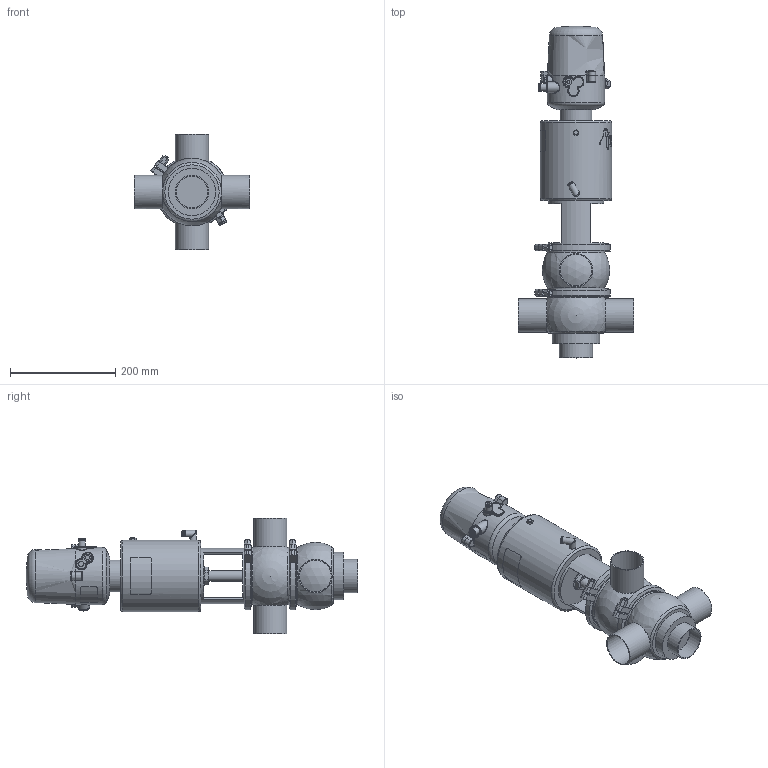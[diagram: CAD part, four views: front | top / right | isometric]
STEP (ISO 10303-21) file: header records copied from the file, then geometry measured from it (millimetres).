
FILE_DESCRIPTION (( 'STEP AP214' ), '1' );
FILE_NAME ('INNOVA K G W OD 2½ T3 AS NC & C-TOP S_10.240.16.0082.STEP', '2024-08-06T09:06:01', ( '' ), ( '' ), 'SwSTEP 2.0', 'SolidWorks 2023', '' );
FILE_SCHEMA (( 'AUTOMOTIVE_DESIGN' ));
Length unit declared in the file: millimetre
Products named in the file (8): INNOVA K G W OD 2½ T3 AS NC & C-TOP S_10.240.16.0082; 10.426.15.0001_C-TOP S - 1 EV; 10.240.15.0014_T3 AS P0; 10.240.15.0007_OD 2½"; 10.240.15.0010_DN 065; 10.240.15.0001_DN 065; 10.240.15.0017_Estàndard; 10.240.15.0003_OD 2½"
Assembly tree (8 placements, depth 2):
  INNOVA K G W OD 2½ T3 AS NC & C-TOP S_10.240.16.0082
    10.240.15.0007_OD 2½"
    10.240.15.0003_OD 2½"
    10.240.15.0010_DN 065
    10.240.15.0014_T3 AS P0
    10.240.15.0017_Estàndard
    10.426.15.0001_C-TOP S - 1 EV
    10.240.15.0001_DN 065  x2
Bounding box: 220 x 631.5 x 220 mm (x, y, z)
Volume: 5994020.1 mm3; surface area: 506951.3 mm2
Topology: 8 solids, 8 shells, 1180 faces, 2852 edges, 1900 vertices
Faces by surface type: plane 412, cylinder 360, cone 201, bspline 160, torus 37, sphere 10
Full cylindrical faces by diameter (mm): 0.371 x17, 0.512 x16, 0.658 x16, 0.795 x16, 0.94 x15, 1.098 x15, 1.241 x13, 1.382 x13, 1.523 x11, 1.669 x10, 2.201 x1, 4 x2, 5.5 x2, 6 x2, 6.15 x1, 8 x6, 8.5 x1, 10 x1, 10.5 x1, 11 x2, 12.5 x3, 13 x2, 13.5 x2, 16 x1, 17 x3, 20 x3, 20.5 x1, 22 x2, 31 x1, 34.5 x3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
Entity records: 58233 total; most frequent: CARTESIAN_POINT 27890, ORIENTED_EDGE 4530, DIRECTION 3681, EDGE_CURVE 2265, VERTEX_POINT 1614, EDGE_LOOP 1585, AXIS2_PLACEMENT_3D 1512, FACE_OUTER_BOUND 1343
